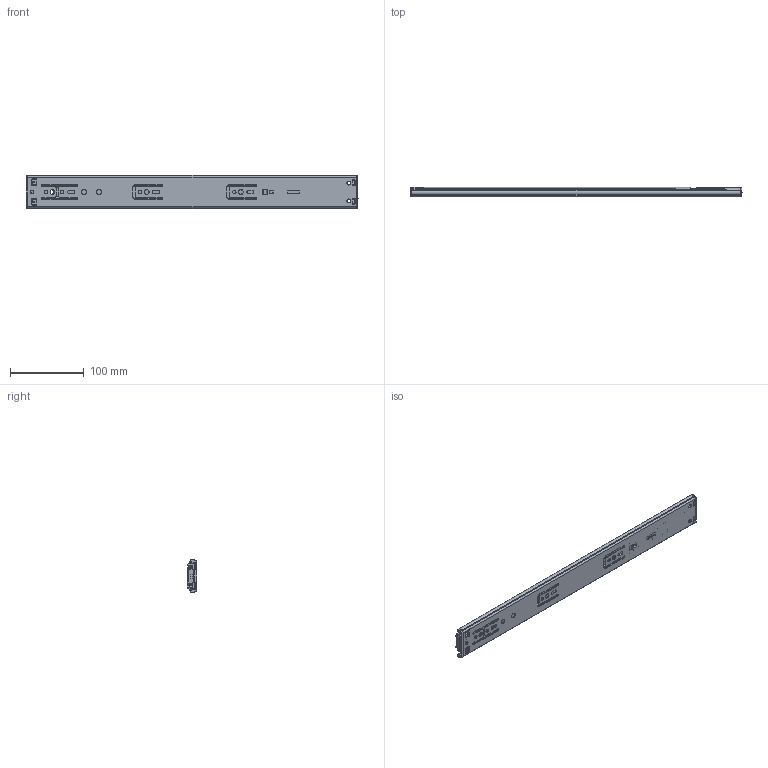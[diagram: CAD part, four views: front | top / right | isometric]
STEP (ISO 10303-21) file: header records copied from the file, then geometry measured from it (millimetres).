
FILE_DESCRIPTION (( 'STEP AP214' ), '1' );
FILE_NAME ('92004T_3D-zasunuty.STEP', '2020-01-24T12:42:26', ( '' ), ( '' ), 'SwSTEP 2.0', 'SolidWorks 2019', '' );
FILE_SCHEMA (( 'AUTOMOTIVE_DESIGN' ));
Length unit declared in the file: millimetre
Products named in the file (48): 10; 10_3; 4_3; 4_5; 10_21; 10_14; 1; 4_6; 10_8; 5; 10_16; 92004T_3D-zasunuty; 4; 10_2; 8; 10_6; 10_20; 10_5; 10_4; 10_12; 10_22; 4_2; 10_24; 10_17; 4_8; 9; 10_7; 7; 6; 10_18; 450 mm; 10_25; 3; 10_19; 2; _X_AAo_X_C0_X_A3_X_BDw_X_BD_X_C4_X_A6_X_DB_X_C3_X_F6_X_AE_y_X_A5_X_BB_X_C5_X_E9__X_B9w_X_B3]; 10_13; 10_15; 4_4; 10_9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
Assembly tree (55 placements, depth 4):
  92004T_3D-zasunuty
    450 mm
      1
      2
        _X_AAo_X_C0_X_A3_X_BDw_X_BD_X_C4_X_A6_X_DB_X_C3_X_F6_X_AE_y_X_A5_X_BB_X_C5_X_E9__X_B9w_X_B3]
        _X_AAo_X_C0_X_A3_X_BDw_X_BD_X_C4_X_A6_X_DB_X_C3_X_F6_X_AE_y_X_BDw_X_BD_X_C4_X_B6_X_F4__X_B9w_X_B3]
      3
      4
        4_4
        4_2
        4_5
        4_6
        4
        4_3
        4_7
        4_8
      4
        4_4
        4_2
        4_5
        4_6
        4
        4_3
        4_7
        4_8
      5
      6
      7
      8
      9
      10
        10_6
        10_22
        10_3
        10_10
        10_15
        10_17
        10_23
        10_5
        10_8
        10_16
        10
        10_12
        10_14
        10_25
        10_9
        10_24
        10_4
        10_13
        10_19
        10_11
        10_7
        10_21
        10_18
        10_2
        10_20
Bounding box: 451 x 13.24 x 45.67 mm (x, y, z)
Volume: 93940 mm3; surface area: 154221.1 mm2
Topology: 50 solids, 50 shells, 2267 faces, 6430 edges, 4087 vertices
Faces by surface type: plane 1096, cylinder 725, bspline 446
Full cylindrical faces by diameter (mm): 3.5 x2, 4.4 x4, 4.6 x5, 5 x6, 5.1 x14, 5.3 x2, 6.4 x3, 7 x2, 9 x1, 10.9 x6
Entity records: 110536 total; most frequent: CARTESIAN_POINT 31130, ORIENTED_EDGE 11960, DIRECTION 10177, EDGE_CURVE 5980, VERTEX_POINT 3853, VECTOR 3607, LINE 3607, AXIS2_PLACEMENT_3D 3285
